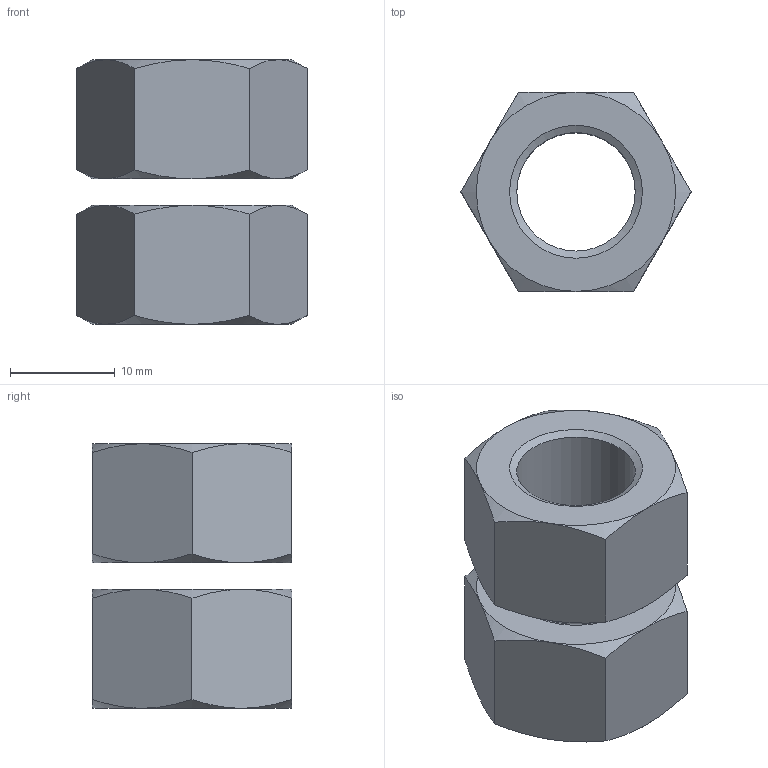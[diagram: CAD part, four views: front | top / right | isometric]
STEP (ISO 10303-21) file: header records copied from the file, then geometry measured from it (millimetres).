
FILE_DESCRIPTION(/* description */ (''),/* implementation_level */ '2;1');
FILE_NAME(/* name */ 'F:\GHRA SERIES\GHRA-750-X-XXXX\GHRA-750-X-1000\GHRA-750-X-1000.iam.stp',/* time_stamp */ '2021-11-17T12:47:13-05:00',/* author */ ('J. Nielson'),/* organization */ (''),/* preprocessor_version */ 'ST-DEVELOPER v18.1',/* originating_system */ 'Autodesk Inventor 2022',/* authorisation */ '');
FILE_SCHEMA (('AUTOMOTIVE_DESIGN { 1 0 10303 214 3 1 1 }'));
Length unit declared in the file: inch
Products named in the file (2): GHRA-750-E-1000; AS 2465 - 1/2  UNF
Assembly tree (2 placements, depth 2):
  GHRA-750-E-1000
    AS 2465 - 1/2  UNF  x2
Bounding box: 22 x 19.05 x 25.3 mm (x, y, z)
Volume: 4808.5 mm3; surface area: 3066.4 mm2
Topology: 2 solids, 2 shells, 46 faces, 100 edges, 58 vertices
Faces by surface type: cone 28, plane 16, cylinder 2
Full cylindrical faces by diameter (mm): 11.328 x2
Entity records: 676 total; most frequent: CARTESIAN_POINT 154, ORIENTED_EDGE 100, DIRECTION 97, EDGE_CURVE 50, AXIS2_PLACEMENT_3D 44, VERTEX_POINT 29, EDGE_LOOP 25, FACE_OUTER_BOUND 23
